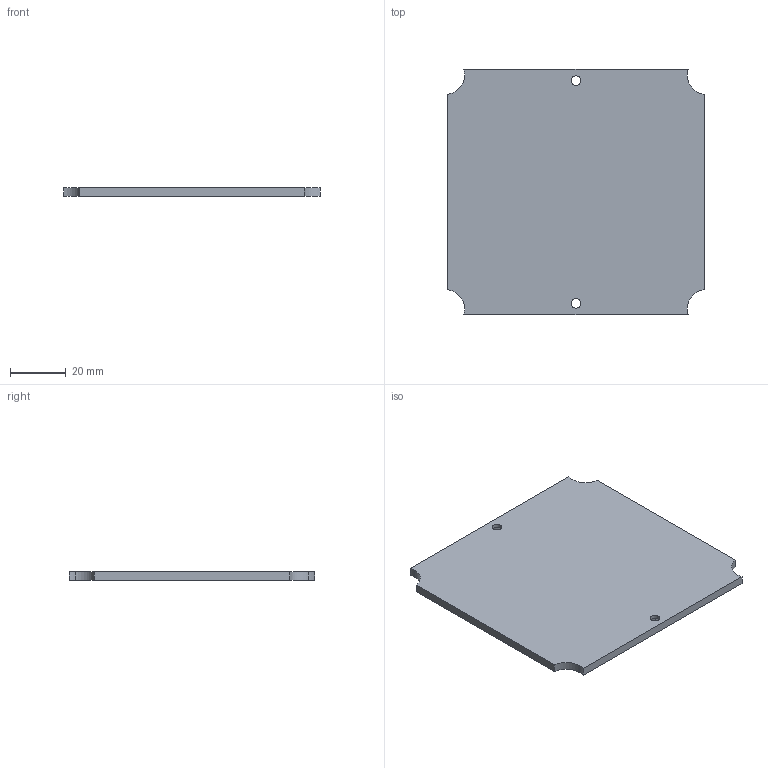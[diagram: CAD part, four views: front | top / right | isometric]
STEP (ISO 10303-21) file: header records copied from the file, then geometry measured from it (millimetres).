
FILE_DESCRIPTION(('FreeCAD Model'),'2;1');
FILE_NAME('Open CASCADE Shape Model','2026-11-07T16:11:57',('FreeCAD'),( 'FreeCAD'),'Open CASCADE STEP processor 7.8','FreeCAD','Unknown');
FILE_SCHEMA(('AUTOMOTIVE_DESIGN { 1 0 10303 214 1 1 1 1 }'));
Length unit declared in the file: millimetre
Products named in the file (1): Open CASCADE STEP translator 7.8 2
Bounding box: 92 x 88 x 3 mm (x, y, z)
Volume: 23677 mm3; surface area: 16908.9 mm2
Topology: 1 solids, 1 shells, 16 faces, 40 edges, 26 vertices
Faces by surface type: cylinder 8, plane 6, cone 2
Full cylindrical faces by diameter (mm): 3.4 x2
Entity records: 504 total; most frequent: DIRECTION 92, CARTESIAN_POINT 83, ORIENTED_EDGE 80, EDGE_CURVE 40, AXIS2_PLACEMENT_3D 35, VERTEX_POINT 26, LINE 22, VECTOR 22
